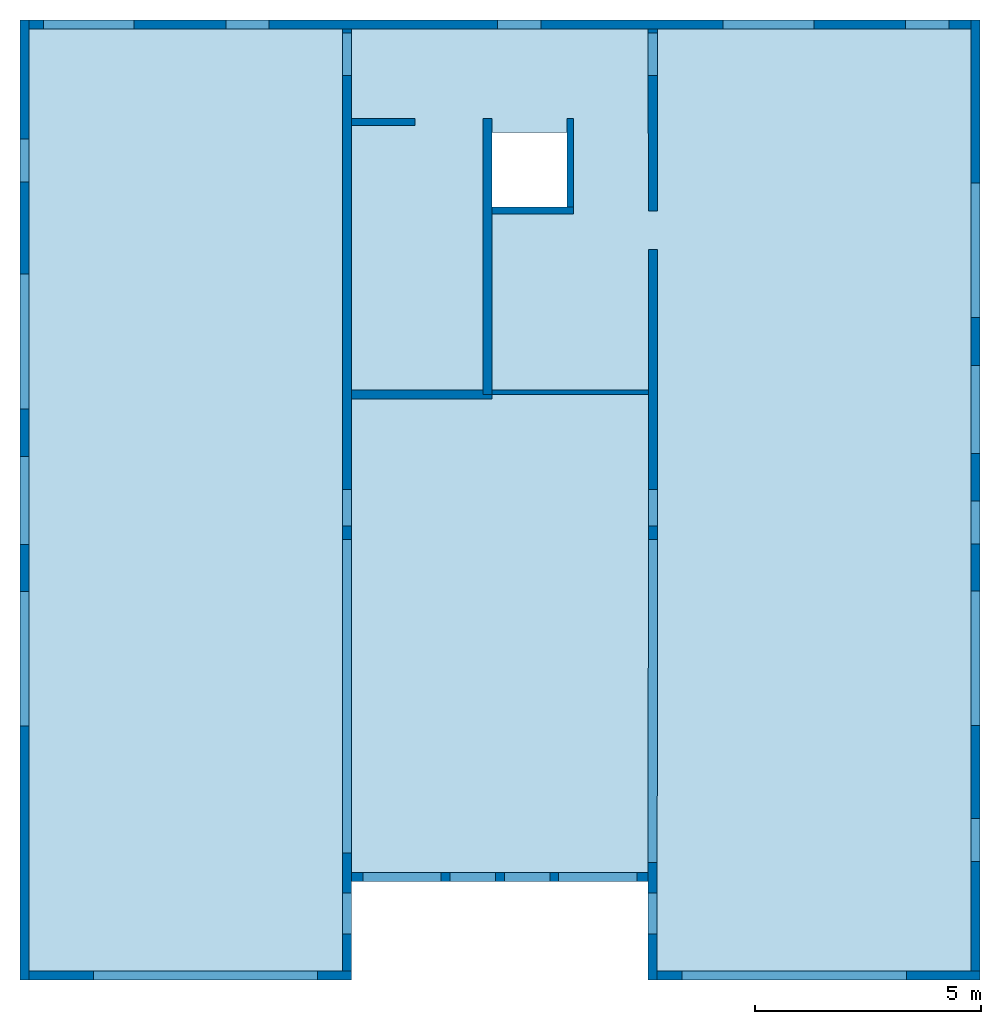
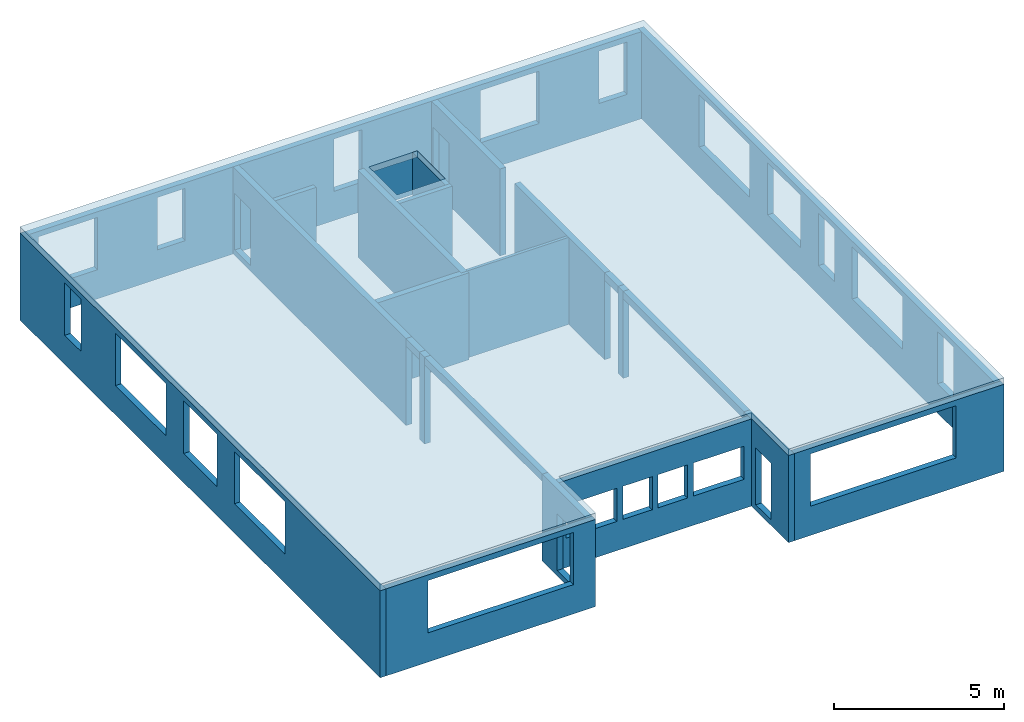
# One storey: 19 walls, 4 beams, 1 slab, 26 openings.
"""IFC2X3 building model written with IfcOpenShell, lengths in millimetres."""

from ifc_helpers import new_model, entity, si_unit, converted_unit, frame, frame_2d, origin, origin_with_axes, place, context, subcontext, project, spatial, polyline, rectangle, outline, extrude, material, layer, layer_set, layer_usage, element, save


model = new_model("IFC2X3")

# Units and contexts
model_context = context("Model", 3, precision=1e-05, world=origin())
body_context = subcontext(model_context, "Body", "Model", "MODEL_VIEW")
ifc_project = project(units=[si_unit("LENGTHUNIT", "METRE", prefix="MILLI"), converted_unit("PLANEANGLEUNIT", "DEGREE", entity("IfcPlaneAngleMeasure", 0.0174532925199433), si_unit("PLANEANGLEUNIT", "RADIAN"), dimensions=[0, 0, 0, 0, 0, 0, 0]), si_unit("AREAUNIT", "SQUARE_METRE"), si_unit("VOLUMEUNIT", "CUBIC_METRE")], contexts=[model_context])

# Building, storey
building_placement = place(None, origin())
building = spatial("IfcBuilding", under=ifc_project, at=building_placement, Name="Bâtiment", CompositionType="ELEMENT")
storey_placement = place(building_placement, frame((0.0, 0.0, 21090.0), z_axis=(0.0, 0.0, 1.0), x_axis=(1.0, 0.0, 0.0)))
storey = spatial("IfcBuildingStorey", under=building, at=storey_placement, Name="6. Etage supérieur", CompositionType="ELEMENT", Elevation=21090.0)

# Beams
ifc_material_1 = material(Name="<Unnamed Material>")
beam_1_placement = place(storey_placement, frame((5082.141178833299, -29113.35259361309, 2660.0), z_axis=(0.0, 0.0, 1.0), x_axis=(0.0001663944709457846, 0.99999998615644, 0.0)))
element("IfcBeam", 1, at=beam_1_placement, inside=storey, material=ifc_material_1, Name="<Unnamed Element>", context=body_context, shape_type="SweptSolid", body=[
    extrude(rectangle(XDim=270.0, YDim=199.9999999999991, at=frame_2d((135.0, -99.99999999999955), x_axis=(1.0, 0.0))), frame((0.0, 0.0, 0.0), z_axis=(1.0, 0.0, 0.0), x_axis=(0.0, 0.0, 1.0)), (0.0, 0.0, 1.0), 6928.885599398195),
])
ifc_material_2 = material(Name="<Unnamed Material>")
beam_2_placement = place(storey_placement, frame((5083.290151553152, -21884.2307459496, 2660.0), z_axis=(0.0, 0.0, 1.0), x_axis=(-1.317473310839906e-05, 0.9999999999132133, 0.0)))
element("IfcBeam", 2, at=beam_2_placement, inside=storey, material=ifc_material_2, Name="<Unnamed Element>", context=body_context, shape_type="SweptSolid", body=[
    extrude(rectangle(XDim=270.0, YDim=200.0000000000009, at=frame_2d((135.0, -100.0000000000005), x_axis=(1.0, 0.0))), frame((0.0, 0.0, 0.0), z_axis=(1.0, 0.0, 0.0), x_axis=(0.0, 0.0, 1.0)), (0.0, 0.0, 1.0), 799.7636557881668),
])
ifc_material_3 = material(Name="<Unnamed Material>")
beam_3_placement = place(storey_placement, frame((11829.62050941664, -29313.35259361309, 2660.0), z_axis=(0.0, 0.0, 1.0), x_axis=(0.0004434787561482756, 0.9999999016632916, 0.0)))
element("IfcBeam", 3, at=beam_3_placement, inside=storey, material=ifc_material_3, Name="<Unnamed Element>", context=body_context, shape_type="SweptSolid", body=[
    extrude(rectangle(XDim=270.0, YDim=200.0000000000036, at=frame_2d((135.0, -100.0000000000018), x_axis=(1.0, 0.0))), frame((0.0, 0.0, 0.0), z_axis=(1.0, 0.0, 0.0), x_axis=(0.0, 0.0, 1.0)), (0.0, 0.0, 1.0), 7128.886204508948),
])
ifc_material_4 = material(Name="<Unnamed Material>")
beam_4_placement = place(storey_placement, frame((11832.73984718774, -21884.23365403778, 2660.0), z_axis=(0.0, 0.0, 1.0), x_axis=(-0.0001404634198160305, 0.9999999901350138, 0.0)))
element("IfcBeam", 4, at=beam_4_placement, inside=storey, material=ifc_material_4, Name="<Unnamed Element>", context=body_context, shape_type="SweptSolid", body=[
    extrude(rectangle(XDim=270.0, YDim=199.9999999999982, at=frame_2d((135.0, -99.99999999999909), x_axis=(1.0, 0.0))), frame((0.0, 0.0, 0.0), z_axis=(1.0, 0.0, 0.0), x_axis=(0.0, 0.0, 1.0)), (0.0, 0.0, 1.0), 799.766560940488),
])

# Slab, openings
ifc_material_5 = material(Name="<Unnamed Material>")
ifc_layer_1 = layer(ifc_material_5, 230.0)
ifc_layer_set_1 = layer_set([ifc_layer_1])
ifc_layer_usage_1 = layer_usage(ifc_layer_set_1, "AXIS3", "POSITIVE", 0.0)
slab_placement = place(storey_placement, frame((-2242.186712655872, -10713.57313399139, 2930.0), z_axis=(0.0, 0.0, 1.0), x_axis=(1.0, 0.0, 0.0)))
slab = element("IfcSlab", 5, at=slab_placement, inside=storey, material=ifc_layer_usage_1, Name="<Unnamed Element>", PredefinedType="FLOOR", context=body_context, shape_type="SweptSolid", body=[
    extrude(rectangle(XDim=21199.7794596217, YDim=21199.78053621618, at=frame_2d((10599.89026810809, -10599.88972981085), x_axis=(0.0, -0.9999999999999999))), origin_with_axes(), (0.0, 0.0, 1.0), 230.0),
])
opening_1_placement = place(slab_placement, frame((10423.20173598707, -2481.977777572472, 0.0), z_axis=(0.0, 0.0, 1.0), x_axis=(1.0, 0.0, 0.0)))
element("IfcOpeningElement", 6, at=opening_1_placement, cuts=slab, Name="Trémie dans dalle", ObjectType="Opening", context=body_context, shape_type="SweptSolid", body=[
    extrude(rectangle(XDim=1648.503166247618, YDim=1651.250216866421, at=frame_2d((825.6251084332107, -824.2515831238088), x_axis=(0.0, -1.0))), origin_with_axes(), (0.0, 0.0, 1.0), 230.0),
])
opening_2_placement = place(slab_placement, frame((7324.327891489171, -19029.63685337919, 0.0), z_axis=(0.0, 0.0, 1.0), x_axis=(1.0, 0.0, 0.0)))
element("IfcOpeningElement", 7, at=opening_2_placement, cuts=slab, Name="Trémie dans dalle", ObjectType="Opening", context=body_context, shape_type="SweptSolid", body=[
    extrude(rectangle(XDim=2170.142606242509, YDim=6547.479330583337, at=frame_2d((3273.739665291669, -1085.071303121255), x_axis=(0.0, -1.0))), origin_with_axes(), (0.0, 0.0, 1.0), 230.0),
])

# Wall, openings
ifc_material_6 = material(Name="<Unnamed Material>")
ifc_layer_2 = layer(ifc_material_6, 200.0)
ifc_layer_set_2 = layer_set([ifc_layer_2])
ifc_layer_usage_2 = layer_usage(ifc_layer_set_2, "AXIS2", "POSITIVE", -200.0)
wall_1_placement = place(storey_placement, frame((-2242.186712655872, -10713.57313399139, -200.0), z_axis=(0.0, 0.0, 1.0), x_axis=(3.432091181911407e-16, -1.0, 0.0)))
wall_1 = element("IfcWallStandardCase", 8, at=wall_1_placement, inside=storey, material=ifc_layer_usage_2, Name="<Unnamed Element>", context=body_context, shape_type="SweptSolid", body=[
    extrude(rectangle(XDim=21199.77945962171, YDim=200.0, at=frame_2d((10599.88972981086, 100.0), x_axis=(1.0, 0.0))), origin_with_axes(), (0.0, 0.0, 1.0), 3130.0),
])
opening_3_placement = place(wall_1_placement, frame((2630.0, -1.195985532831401e-12, 1050.0), z_axis=(0.0, 1.0, 0.0), x_axis=(0.0, 0.0, 1.0)))
element("IfcOpeningElement", 9, at=opening_3_placement, cuts=wall_1, Name="Baie de fenêtre", ObjectType="Opening", context=body_context, shape_type="SweptSolid", body=[
    extrude(rectangle(XDim=1880.0, YDim=950.0, at=frame_2d((940.0, 475.0), x_axis=(1.0, 0.0))), origin_with_axes(), (0.0, 0.0, 1.0), 200.0),
])
opening_4_placement = place(wall_1_placement, frame((5610.0, -2.551132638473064e-12, 1050.0), z_axis=(0.0, 1.0, 0.0), x_axis=(0.0, 0.0, 1.0)))
element("IfcOpeningElement", 10, at=opening_4_placement, cuts=wall_1, Name="Baie de fenêtre", ObjectType="Opening", context=body_context, shape_type="SweptSolid", body=[
    extrude(rectangle(XDim=1880.0, YDim=2975.0, at=frame_2d((940.0, 1487.5), x_axis=(1.0, 0.0))), origin_with_axes(), (0.0, 0.0, 1.0), 200.0),
])
opening_5_placement = place(wall_1_placement, frame((9635.0, -4.381490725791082e-12, 1050.0), z_axis=(0.0, 1.0, 0.0), x_axis=(0.0, 0.0, 1.0)))
element("IfcOpeningElement", 11, at=opening_5_placement, cuts=wall_1, Name="Baie de fenêtre", ObjectType="Opening", context=body_context, shape_type="SweptSolid", body=[
    extrude(rectangle(XDim=1880.0, YDim=1950.0, at=frame_2d((940.0, 975.0), x_axis=(1.0, 0.0))), origin_with_axes(), (0.0, 0.0, 1.0), 200.0),
])
opening_6_placement = place(wall_1_placement, frame((12615.28281262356, -5.736766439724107e-12, 1050.0), z_axis=(0.0, 1.0, 0.0), x_axis=(0.0, 0.0, 1.0)))
element("IfcOpeningElement", 12, at=opening_6_placement, cuts=wall_1, Name="Baie de fenêtre", ObjectType="Opening", context=body_context, shape_type="SweptSolid", body=[
    extrude(rectangle(XDim=1880.0, YDim=2975.0, at=frame_2d((940.0, 1487.5), x_axis=(1.0, 0.0))), origin_with_axes(), (0.0, 0.0, 1.0), 199.9999999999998),
])

# Wall, opening
ifc_material_7 = material(Name="<Unnamed Material>")
ifc_layer_3 = layer(ifc_material_7, 200.0)
ifc_layer_set_3 = layer_set([ifc_layer_3])
ifc_layer_usage_3 = layer_usage(ifc_layer_set_3, "AXIS2", "POSITIVE", -200.0)
wall_2_placement = place(storey_placement, frame((-2042.18671265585, -31913.35259361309, -200.0), z_axis=(0.0, 0.0, 1.0), x_axis=(1.0, 6.740470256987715e-14, 0.0)))
wall_2 = element("IfcWallStandardCase", 13, at=wall_2_placement, inside=storey, material=ifc_layer_usage_3, Name="<Unnamed Element>", context=body_context, shape_type="SweptSolid", body=[
    extrude(rectangle(XDim=7124.327891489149, YDim=200.0, at=frame_2d((3562.163945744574, 100.0), x_axis=(1.0, 0.0))), origin_with_axes(), (0.0, 0.0, 1.0), 3130.0),
])
opening_7_placement = place(wall_2_placement, frame((1424.327891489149, -3.864370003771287e-12, 1050.0), z_axis=(0.0, 1.0, 0.0), x_axis=(0.0, 0.0, 1.0)))
element("IfcOpeningElement", 14, at=opening_7_placement, cuts=wall_2, Name="Baie de fenêtre", ObjectType="Opening", context=body_context, shape_type="SweptSolid", body=[
    extrude(rectangle(XDim=1880.0, YDim=4950.0, at=frame_2d((940.0, 2475.0), x_axis=(1.0, 0.0))), origin_with_axes(), (0.0, 0.0, 1.0), 200.0),
])

# Wall, openings
ifc_material_8 = material(Name="<Unnamed Material>")
ifc_layer_4 = layer(ifc_material_8, 200.0)
ifc_layer_set_4 = layer_set([ifc_layer_4])
ifc_layer_usage_4 = layer_usage(ifc_layer_set_4, "AXIS2", "POSITIVE", -200.0)
wall_3_placement = place(storey_placement, frame((5082.141178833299, -29743.20998737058, -200.0), z_axis=(0.0, 0.0, 1.0), x_axis=(1.0, 1.11126087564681e-15, 0.0)))
wall_3 = element("IfcWallStandardCase", 15, at=wall_3_placement, inside=storey, material=ifc_layer_usage_4, Name="<Unnamed Element>", context=body_context, shape_type="SweptSolid", body=[
    extrude(rectangle(XDim=6547.479330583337, YDim=200.0, at=frame_2d((3273.739665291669, 100.0), x_axis=(1.0, 0.0))), origin_with_axes(), (0.0, 0.0, 1.0), 3130.0),
])
opening_8_placement = place(wall_3_placement, frame((4572.479330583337, 3.637978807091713e-12, 1050.0), z_axis=(0.0, 1.0, 0.0), x_axis=(0.0, 0.0, 1.0)))
element("IfcOpeningElement", 16, at=opening_8_placement, cuts=wall_3, Name="Baie de fenêtre", ObjectType="Opening", context=body_context, shape_type="SweptSolid", body=[
    extrude(rectangle(XDim=1190.0, YDim=1725.0, at=frame_2d((595.0, 862.5), x_axis=(1.0, 0.0))), origin_with_axes(), (0.0, 0.0, 1.0), 200.0),
])
opening_9_placement = place(wall_3_placement, frame((250.0, 0.0, 1050.0), z_axis=(0.0, 1.0, 0.0), x_axis=(0.0, 0.0, 1.0)))
element("IfcOpeningElement", 17, at=opening_9_placement, cuts=wall_3, Name="Baie de fenêtre", ObjectType="Opening", context=body_context, shape_type="SweptSolid", body=[
    extrude(rectangle(XDim=1190.0, YDim=1725.0, at=frame_2d((595.0, 862.5), x_axis=(1.0, 0.0))), origin_with_axes(), (0.0, 0.0, 1.0), 200.0),
])
opening_10_placement = place(wall_3_placement, frame((2175.0, 3.637978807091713e-12, 1050.0), z_axis=(0.0, 1.0, 0.0), x_axis=(0.0, 0.0, 1.0)))
element("IfcOpeningElement", 18, at=opening_10_placement, cuts=wall_3, Name="Baie de fenêtre", ObjectType="Opening", context=body_context, shape_type="SweptSolid", body=[
    extrude(rectangle(XDim=1190.0, YDim=1000.0, at=frame_2d((595.0, 500.0), x_axis=(1.0, 0.0))), origin_with_axes(), (0.0, 0.0, 1.0), 200.0),
])
opening_11_placement = place(wall_3_placement, frame((3375.0, 3.637978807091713e-12, 1050.0), z_axis=(0.0, 1.0, 0.0), x_axis=(0.0, 0.0, 1.0)))
element("IfcOpeningElement", 19, at=opening_11_placement, cuts=wall_3, Name="Baie de fenêtre", ObjectType="Opening", context=body_context, shape_type="SweptSolid", body=[
    extrude(rectangle(XDim=1190.0, YDim=1000.0, at=frame_2d((595.0, 500.0), x_axis=(1.0, 0.0))), origin_with_axes(), (0.0, 0.0, 1.0), 200.0),
])

# Wall, opening
ifc_material_9 = material(Name="<Unnamed Material>")
ifc_layer_5 = layer(ifc_material_9, 200.0)
ifc_layer_set_5 = layer_set([ifc_layer_5])
ifc_layer_usage_5 = layer_usage(ifc_layer_set_5, "AXIS2", "POSITIVE", -200.0)
wall_4_placement = place(storey_placement, frame((11829.62050941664, -31913.35259361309, -200.0), z_axis=(0.0, 0.0, 1.0), x_axis=(0.0, 1.0, 0.0)))
wall_4 = element("IfcWallStandardCase", 20, at=wall_4_placement, inside=storey, material=ifc_layer_usage_5, Name="<Unnamed Element>", context=body_context, shape_type="SweptSolid", body=[
    extrude(rectangle(XDim=2600.0, YDim=200.0, at=frame_2d((1300.0, 100.0), x_axis=(1.0, 0.0))), origin_with_axes(), (0.0, 0.0, 1.0), 3130.0),
])
opening_12_placement = place(wall_4_placement, frame((1020.784339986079, 0.0, 200.0), z_axis=(0.0, 1.0, 0.0), x_axis=(0.0, 0.0, 1.0)))
element("IfcOpeningElement", 21, at=opening_12_placement, cuts=wall_4, Name="Baie de porte", ObjectType="Opening", context=body_context, shape_type="SweptSolid", body=[
    extrude(rectangle(XDim=2040.0, YDim=900.0, at=frame_2d((1020.0, 450.0), x_axis=(1.0, 0.0))), origin_with_axes(), (0.0, 0.0, 1.0), 200.0),
])

ifc_material_10 = material(Name="<Unnamed Material>")
ifc_layer_6 = layer(ifc_material_10, 200.0)
ifc_layer_set_6 = layer_set([ifc_layer_6])
ifc_layer_usage_6 = layer_usage(ifc_layer_set_6, "AXIS2", "POSITIVE", -200.0)
wall_5_placement = place(storey_placement, frame((11829.62050941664, -31913.35259361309, -200.0), z_axis=(0.0, 0.0, 1.0), x_axis=(1.0, 0.0, 0.0)))
wall_5 = element("IfcWallStandardCase", 22, at=wall_5_placement, inside=storey, material=ifc_layer_usage_6, Name="<Unnamed Element>", context=body_context, shape_type="SweptSolid", body=[
    extrude(rectangle(XDim=7127.973314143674, YDim=200.0, at=frame_2d((3563.986657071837, 100.0), x_axis=(1.0, 0.0))), origin_with_axes(), (0.0, 0.0, 1.0), 3130.0),
])
opening_13_placement = place(wall_5_placement, frame((550.0, 0.0, 1050.0), z_axis=(0.0, 1.0, 0.0), x_axis=(0.0, 0.0, 1.0)))
element("IfcOpeningElement", 23, at=opening_13_placement, cuts=wall_5, Name="Baie de fenêtre", ObjectType="Opening", context=body_context, shape_type="SweptSolid", body=[
    extrude(rectangle(XDim=1880.0, YDim=4950.0, at=frame_2d((940.0, 2475.0), x_axis=(1.0, 0.0))), origin_with_axes(), (0.0, 0.0, 1.0), 200.0),
])

# Wall, openings
ifc_material_11 = material(Name="<Unnamed Material>")
ifc_layer_7 = layer(ifc_material_11, 200.0)
ifc_layer_set_7 = layer_set([ifc_layer_7])
ifc_layer_usage_7 = layer_usage(ifc_layer_set_7, "AXIS2", "POSITIVE", -200.0)
wall_6_placement = place(storey_placement, frame((18957.59382356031, -31713.35259361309, -200.0), z_axis=(0.0, 0.0, 1.0), x_axis=(1.732389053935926e-16, 1.0, 0.0)))
wall_6 = element("IfcWallStandardCase", 24, at=wall_6_placement, inside=storey, material=ifc_layer_usage_7, Name="<Unnamed Element>", context=body_context, shape_type="SweptSolid", body=[
    extrude(rectangle(XDim=20999.7794596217, YDim=200.0, at=frame_2d((10499.88972981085, 100.0), x_axis=(1.0, 0.0))), origin_with_axes(), (0.0, 0.0, 1.0), 3130.0),
])
opening_14_placement = place(wall_6_placement, frame((2419.794981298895, 0.0, 1050.0), z_axis=(0.0, 1.0, 0.0), x_axis=(0.0, 0.0, 1.0)))
element("IfcOpeningElement", 25, at=opening_14_placement, cuts=wall_6, Name="Baie de fenêtre", ObjectType="Opening", context=body_context, shape_type="SweptSolid", body=[
    extrude(rectangle(XDim=1880.0, YDim=950.0, at=frame_2d((940.0, 475.0), x_axis=(1.0, 0.0))), origin_with_axes(), (0.0, 0.0, 1.0), 200.0),
])
opening_15_placement = place(wall_6_placement, frame((5419.794981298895, 0.0, 1050.0), z_axis=(0.0, 1.0, 0.0), x_axis=(0.0, 0.0, 1.0)))
element("IfcOpeningElement", 26, at=opening_15_placement, cuts=wall_6, Name="Baie de fenêtre", ObjectType="Opening", context=body_context, shape_type="SweptSolid", body=[
    extrude(rectangle(XDim=1880.0, YDim=2975.0, at=frame_2d((940.0, 1487.5), x_axis=(1.0, 0.0))), origin_with_axes(), (0.0, 0.0, 1.0), 200.0),
])
opening_16_placement = place(wall_6_placement, frame((9424.794981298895, 0.0, 1050.0), z_axis=(0.0, 1.0, 0.0), x_axis=(0.0, 0.0, 1.0)))
element("IfcOpeningElement", 27, at=opening_16_placement, cuts=wall_6, Name="Baie de fenêtre", ObjectType="Opening", context=body_context, shape_type="SweptSolid", body=[
    extrude(rectangle(XDim=1880.0, YDim=950.0, at=frame_2d((940.0, 475.0), x_axis=(1.0, 0.0))), origin_with_axes(), (0.0, 0.0, 1.0), 200.0),
])
opening_17_placement = place(wall_6_placement, frame((11424.7949812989, -3.637978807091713e-12, 1050.0), z_axis=(0.0, 1.0, 0.0), x_axis=(0.0, 0.0, 1.0)))
element("IfcOpeningElement", 28, at=opening_17_placement, cuts=wall_6, Name="Baie de fenêtre", ObjectType="Opening", context=body_context, shape_type="SweptSolid", body=[
    extrude(rectangle(XDim=1880.0, YDim=1950.0, at=frame_2d((940.0, 975.0), x_axis=(1.0, 0.0))), origin_with_axes(), (0.0, 0.0, 1.0), 200.0),
])
opening_18_placement = place(wall_6_placement, frame((14424.7949812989, -3.637978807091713e-12, 1050.0), z_axis=(0.0, 1.0, 0.0), x_axis=(0.0, 0.0, 1.0)))
element("IfcOpeningElement", 29, at=opening_18_placement, cuts=wall_6, Name="Baie de fenêtre", ObjectType="Opening", context=body_context, shape_type="SweptSolid", body=[
    extrude(rectangle(XDim=1880.0, YDim=2975.0, at=frame_2d((940.0, 1487.5), x_axis=(1.0, 0.0))), origin_with_axes(), (0.0, 0.0, 1.0), 200.0),
])

# Walls
ifc_material_12 = material(Name="<Unnamed Material>")
ifc_layer_8 = layer(ifc_material_12, 199.999999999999)
ifc_layer_set_8 = layer_set([ifc_layer_8])
ifc_layer_usage_8 = layer_usage(ifc_layer_set_8, "AXIS2", "POSITIVE", -200.0)
wall_7_placement = place(storey_placement, frame((5083.253280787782, -19085.63398741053, -200.0), z_axis=(0.0, 0.0, 1.0), x_axis=(0.9999999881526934, 0.0001539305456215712, 0.0)))
element("IfcWallStandardCase", 30, at=wall_7_placement, inside=storey, material=ifc_layer_usage_8, Name="<Unnamed Element>", context=body_context, shape_type="SweptSolid", body=[
    extrude(outline(polyline([(0.0, 0.0), (3099.828840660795, 0.0), (3099.844233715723, 100.0000011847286), (2899.84423608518, 100.0307872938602), (2899.85962440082, 199.999999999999), (0.02815116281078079, 200.0000000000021), (0.0, 0.0)])), origin_with_axes(), (0.0, 0.0, 1.0), 3130.0),
])
ifc_material_13 = material(Name="<Unnamed Material>")
ifc_layer_9 = layer(ifc_material_13, 200.0)
ifc_layer_set_9 = layer_set([ifc_layer_9])
ifc_layer_usage_9 = layer_usage(ifc_layer_set_9, "AXIS2", "POSITIVE", -200.0)
wall_8_placement = place(storey_placement, frame((8183.082084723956, -18985.1568266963, -200.0), z_axis=(0.0, 0.0, 1.0), x_axis=(4.776590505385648e-15, 1.0, 0.0)))
element("IfcWallStandardCase", 31, at=wall_8_placement, inside=storey, material=ifc_layer_usage_9, Name="<Unnamed Element>", context=body_context, shape_type="SweptSolid", body=[
    extrude(rectangle(XDim=6093.013504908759, YDim=200.0, at=frame_2d((3046.506752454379, 100.0), x_axis=(1.0, 0.0))), origin_with_axes(), (0.0, 0.0, 1.0), 3130.0),
])
ifc_material_14 = material(Name="<Unnamed Material>")
ifc_layer_10 = layer(ifc_material_14, 150.0)
ifc_layer_set_10 = layer_set([ifc_layer_10])
ifc_layer_usage_10 = layer_usage(ifc_layer_set_10, "AXIS2", "POSITIVE", -150.0)
wall_9_placement = place(storey_placement, frame((5083.173659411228, -13042.14332178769, -200.0), z_axis=(0.0, 0.0, 1.0), x_axis=(1.0, 0.0, 0.0)))
element("IfcWallStandardCase", 32, at=wall_9_placement, inside=storey, material=ifc_layer_usage_10, Name="<Unnamed Element>", context=body_context, shape_type="SweptSolid", body=[
    extrude(outline(polyline([(0.0, 0.0), (1398.094627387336, 0.0), (1398.094627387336, 150.0), (-0.001976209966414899, 150.0), (0.0, 0.0)])), origin_with_axes(), (0.0, 0.0, 1.0), 3130.0),
])
ifc_material_15 = material(Name="<Unnamed Material>")
ifc_layer_11 = layer(ifc_material_15, 150.0)
ifc_layer_set_11 = layer_set([ifc_layer_11])
ifc_layer_usage_11 = layer_usage(ifc_layer_set_11, "AXIS2", "POSITIVE", -150.0)
wall_10_placement = place(storey_placement, frame((8183.082084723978, -14994.05407781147, -200.0), z_axis=(0.0, 0.0, 1.0), x_axis=(1.0, -2.022016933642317e-15, 0.0)))
element("IfcWallStandardCase", 33, at=wall_10_placement, inside=storey, material=ifc_layer_usage_11, Name="<Unnamed Element>", context=body_context, shape_type="SweptSolid", body=[
    extrude(rectangle(XDim=1799.183155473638, YDim=150.0, at=frame_2d((899.5915777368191, 75.0), x_axis=(1.0, 0.0))), origin_with_axes(), (0.0, 0.0, 1.0), 3130.0),
])
ifc_material_16 = material(Name="<Unnamed Material>")
ifc_layer_12 = layer(ifc_material_16, 150.0)
ifc_layer_set_12 = layer_set([ifc_layer_12])
ifc_layer_usage_12 = layer_usage(ifc_layer_set_12, "AXIS2", "POSITIVE", -150.0)
wall_11_placement = place(storey_placement, frame((9982.265240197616, -14844.05407781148, -200.0), z_axis=(0.0, 0.0, 1.0), x_axis=(7.455215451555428e-15, 1.0, 0.0)))
element("IfcWallStandardCase", 34, at=wall_11_placement, inside=storey, material=ifc_layer_usage_12, Name="<Unnamed Element>", context=body_context, shape_type="SweptSolid", body=[
    extrude(rectangle(XDim=1951.910756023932, YDim=150.0, at=frame_2d((975.9553780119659, 75.0), x_axis=(1.0, 0.0))), origin_with_axes(), (0.0, 0.0, 1.0), 3130.0),
])
ifc_material_17 = material(Name="<Unnamed Material>")
ifc_layer_13 = layer(ifc_material_17, 200.0000000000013)
ifc_layer_set_13 = layer_set([ifc_layer_13])
ifc_layer_usage_13 = layer_usage(ifc_layer_set_13, "AXIS2", "POSITIVE", -200.0)
wall_12_placement = place(storey_placement, frame((11632.73984916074, -21884.26174672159, -200.0), z_axis=(0.0, 0.0, 1.0), x_axis=(0.000140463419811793, -0.999999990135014, 0.0)))
element("IfcWallStandardCase", 35, at=wall_12_placement, inside=storey, material=ifc_layer_usage_13, Name="<Unnamed Element>", context=body_context, shape_type="SweptSolid", body=[
    extrude(rectangle(XDim=300.2334390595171, YDim=200.0000000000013, at=frame_2d((150.1167195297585, 100.0000000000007), x_axis=(1.0, 0.0))), origin_with_axes(), (0.0, 0.0, 1.0), 3130.0),
])
ifc_material_18 = material(Name="<Unnamed Material>")
ifc_layer_14 = layer(ifc_material_18, 200.0000000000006)
ifc_layer_set_14 = layer_set([ifc_layer_14])
ifc_layer_usage_14 = layer_usage(ifc_layer_set_14, "AXIS2", "POSITIVE", -200.0)
wall_13_placement = place(storey_placement, frame((4883.290151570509, -21884.23338089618, -200.0), z_axis=(0.0, 0.0, 1.0), x_axis=(1.31747331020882e-05, -0.9999999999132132, 0.0)))
element("IfcWallStandardCase", 36, at=wall_13_placement, inside=storey, material=ifc_layer_usage_14, Name="<Unnamed Element>", context=body_context, shape_type="SweptSolid", body=[
    extrude(rectangle(XDim=300.2363442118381, YDim=200.0000000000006, at=frame_2d((150.118172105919, 100.0000000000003), x_axis=(1.0, 0.0))), origin_with_axes(), (0.0, 0.0, 1.0), 3130.0),
])

# Wall, opening
ifc_material_19 = material(Name="<Unnamed Material>")
ifc_layer_15 = layer(ifc_material_19, 200.0000000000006)
ifc_layer_set_15 = layer_set([ifc_layer_15])
ifc_layer_usage_15 = layer_usage(ifc_layer_set_15, "AXIS2", "POSITIVE", -200.0)
wall_14_placement = place(storey_placement, frame((4883.145616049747, -10913.57313399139, -200.0), z_axis=(0.0, 0.0, 1.0), x_axis=(1.317473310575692e-05, -0.9999999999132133, 0.0)))
wall_14 = element("IfcWallStandardCase", 37, at=wall_14_placement, inside=storey, material=ifc_layer_usage_15, Name="<Unnamed Element>", context=body_context, shape_type="SweptSolid", body=[
    extrude(outline(polyline([(0.0, 0.0), (10170.89659206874, 0.0), (10170.89659206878, 200.0000000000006), (0.002634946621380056, 199.9999999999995), (0.0, 0.0)])), origin_with_axes(), (0.0, 0.0, 1.0), 3130.0),
])
opening_19_placement = place(wall_14_placement, frame((92.06476986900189, 6.678295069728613e-14, 200.0), z_axis=(0.0, 1.0, 0.0), x_axis=(0.0, 0.0, 1.0)))
element("IfcOpeningElement", 38, at=opening_19_placement, cuts=wall_14, Name="Porte-fenêtre", ObjectType="Opening", context=body_context, shape_type="SweptSolid", body=[
    extrude(rectangle(XDim=2040.0, YDim=930.0, at=frame_2d((1020.0, 465.0), x_axis=(1.0, 0.0))), origin_with_axes(), (0.0, 0.0, 1.0), 200.0000000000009),
])

# Walls
ifc_material_20 = material(Name="<Unnamed Material>")
ifc_layer_16 = layer(ifc_material_20, 100.0)
ifc_layer_set_16 = layer_set([ifc_layer_16])
ifc_layer_usage_16 = layer_usage(ifc_layer_set_16, "AXIS2", "POSITIVE", -100.0)
wall_15_placement = place(storey_placement, frame((8183.082084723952, -18985.1568266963, -200.0), z_axis=(0.0, 0.0, 1.0), x_axis=(1.0, -4.218862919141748e-14, 0.0)))
element("IfcWallStandardCase", 39, at=wall_15_placement, inside=storey, material=ifc_layer_usage_16, Name="<Unnamed Element>", context=body_context, shape_type="SweptSolid", body=[
    extrude(outline(polyline([(0.0, 0.0), (3449.250546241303, 0.0), (3449.236499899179, 100.0), (-5.808841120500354e-13, 100.0), (0.0, 0.0)])), origin_with_axes(), (0.0, 0.0, 1.0), 3130.0),
])
ifc_material_21 = material(Name="<Unnamed Material>")
ifc_layer_17 = layer(ifc_material_21, 199.9999999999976)
ifc_layer_set_17 = layer_set([ifc_layer_17])
ifc_layer_usage_17 = layer_usage(ifc_layer_set_17, "AXIS2", "POSITIVE", -200.0)
wall_16_placement = place(storey_placement, frame((11631.88314802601, -15785.15688785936, -200.0), z_axis=(0.0, 0.0, 1.0), x_axis=(0.0001404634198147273, -0.9999999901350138, 0.0)))
element("IfcWallStandardCase", 40, at=wall_16_placement, inside=storey, material=ifc_layer_usage_17, Name="<Unnamed Element>", context=body_context, shape_type="SweptSolid", body=[
    extrude(rectangle(XDim=5299.338358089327, YDim=199.9999999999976, at=frame_2d((2649.669179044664, 99.9999999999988), x_axis=(1.0, 0.0))), origin_with_axes(), (0.0, 0.0, 1.0), 3130.0),
])

# Wall, opening
ifc_material_22 = material(Name="<Unnamed Material>")
ifc_layer_18 = layer(ifc_material_22, 199.9999999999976)
ifc_layer_set_18 = layer_set([ifc_layer_18])
ifc_layer_usage_18 = layer_usage(ifc_layer_set_18, "AXIS2", "POSITIVE", -200.0)
wall_17_placement = place(storey_placement, frame((11631.19886870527, -10913.57313399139, -200.0), z_axis=(0.0, 0.0, 1.0), x_axis=(0.0001404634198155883, -0.9999999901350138, 0.0)))
wall_17 = element("IfcWallStandardCase", 41, at=wall_17_placement, inside=storey, material=ifc_layer_usage_18, Name="<Unnamed Element>", context=body_context, shape_type="SweptSolid", body=[
    extrude(outline(polyline([(0.0, 0.0), (4021.58381031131, -1.110223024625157e-16), (4021.583810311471, 199.9999999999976), (0.02809268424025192, 200.0000000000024), (0.0, 0.0)])), origin_with_axes(), (0.0, 0.0, 1.0), 3130.0),
])
opening_20_placement = place(wall_17_placement, frame((91.5837713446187, 2.4966660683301e-13, 200.0), z_axis=(0.0, 1.0, 0.0), x_axis=(0.0, 0.0, 1.0)))
element("IfcOpeningElement", 42, at=opening_20_placement, cuts=wall_17, Name="Porte-fenêtre", ObjectType="Opening", context=body_context, shape_type="SweptSolid", body=[
    extrude(rectangle(XDim=2040.0, YDim=930.0, at=frame_2d((1020.0, 465.0), x_axis=(1.0, 0.0))), origin_with_axes(), (0.0, 0.0, 1.0), 200.0000000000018),
])

# Wall, openings
ifc_material_23 = material(Name="<Unnamed Material>")
ifc_layer_19 = layer(ifc_material_23, 200.0)
ifc_layer_set_19 = layer_set([ifc_layer_19])
ifc_layer_usage_19 = layer_usage(ifc_layer_set_19, "AXIS2", "POSITIVE", -200.0)
wall_18_placement = place(storey_placement, frame((18757.59382356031, -10713.57313399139, -200.0), z_axis=(0.0, 0.0, 1.0), x_axis=(-1.0, 0.0, 0.0)))
wall_18 = element("IfcWallStandardCase", 43, at=wall_18_placement, inside=storey, material=ifc_layer_usage_19, Name="<Unnamed Element>", context=body_context, shape_type="SweptSolid", body=[
    extrude(rectangle(XDim=20799.78053621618, YDim=200.0, at=frame_2d((10399.89026810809, 100.0), x_axis=(1.0, 0.0))), origin_with_axes(), (0.0, 0.0, 1.0), 3130.0),
])
opening_21_placement = place(wall_18_placement, frame((490.0, 0.0, 1050.0), z_axis=(0.0, 1.0, 0.0), x_axis=(0.0, 0.0, 1.0)))
element("IfcOpeningElement", 44, at=opening_21_placement, cuts=wall_18, Name="Baie de fenêtre", ObjectType="Opening", context=body_context, shape_type="SweptSolid", body=[
    extrude(rectangle(XDim=1880.0, YDim=950.0, at=frame_2d((940.0, 475.0), x_axis=(1.0, 0.0))), origin_with_axes(), (0.0, 0.0, 1.0), 200.0),
])
opening_22_placement = place(wall_18_placement, frame((3470.0, 0.0, 1050.0), z_axis=(0.0, 1.0, 0.0), x_axis=(0.0, 0.0, 1.0)))
element("IfcOpeningElement", 45, at=opening_22_placement, cuts=wall_18, Name="Baie de fenêtre", ObjectType="Opening", context=body_context, shape_type="SweptSolid", body=[
    extrude(rectangle(XDim=1880.0, YDim=2000.0, at=frame_2d((940.0, 1000.0), x_axis=(1.0, 0.0))), origin_with_axes(), (0.0, 0.0, 1.0), 200.0),
])
opening_23_placement = place(wall_18_placement, frame((9500.0, 0.0, 1050.0), z_axis=(0.0, 1.0, 0.0), x_axis=(0.0, 0.0, 1.0)))
element("IfcOpeningElement", 46, at=opening_23_placement, cuts=wall_18, Name="Baie de fenêtre", ObjectType="Opening", context=body_context, shape_type="SweptSolid", body=[
    extrude(rectangle(XDim=1880.0, YDim=950.0, at=frame_2d((940.0, 475.0), x_axis=(1.0, 0.0))), origin_with_axes(), (0.0, 0.0, 1.0), 200.0),
])
opening_24_placement = place(wall_18_placement, frame((15499.85239635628, 0.0, 1050.0), z_axis=(0.0, 1.0, 0.0), x_axis=(0.0, 0.0, 1.0)))
element("IfcOpeningElement", 47, at=opening_24_placement, cuts=wall_18, Name="Baie de fenêtre", ObjectType="Opening", context=body_context, shape_type="SweptSolid", body=[
    extrude(rectangle(XDim=1880.0, YDim=950.0, at=frame_2d((940.0, 475.0), x_axis=(1.0, 0.0))), origin_with_axes(), (0.0, 0.0, 1.0), 200.0),
])
opening_25_placement = place(wall_18_placement, frame((18479.85239635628, 0.0, 1050.0), z_axis=(0.0, 1.0, 0.0), x_axis=(0.0, 0.0, 1.0)))
element("IfcOpeningElement", 48, at=opening_25_placement, cuts=wall_18, Name="Baie de fenêtre", ObjectType="Opening", context=body_context, shape_type="SweptSolid", body=[
    extrude(rectangle(XDim=1880.0, YDim=2000.0, at=frame_2d((940.0, 1000.0), x_axis=(1.0, 0.0))), origin_with_axes(), (0.0, 0.0, 1.0), 200.0),
])

# Wall, opening
ifc_material_24 = material(Name="<Unnamed Material>")
ifc_layer_20 = layer(ifc_material_24, 200.0)
ifc_layer_set_20 = layer_set([ifc_layer_20])
ifc_layer_usage_20 = layer_usage(ifc_layer_set_20, "AXIS2", "POSITIVE", -200.0)
wall_19_placement = place(storey_placement, frame((5082.141178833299, -31713.35259361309, -200.0), z_axis=(0.0, 0.0, 1.0), x_axis=(0.0, 1.0, 0.0)))
wall_19 = element("IfcWallStandardCase", 49, at=wall_19_placement, inside=storey, material=ifc_layer_usage_20, Name="<Unnamed Element>", context=body_context, shape_type="SweptSolid", body=[
    extrude(rectangle(XDim=2600.0, YDim=200.0, at=frame_2d((1300.0, 100.0), x_axis=(1.0, 0.0))), origin_with_axes(), (0.0, 0.0, 1.0), 3130.0),
])
opening_26_placement = place(wall_19_placement, frame((820.7843399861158, 0.0, 200.0), z_axis=(0.0, 1.0, 0.0), x_axis=(0.0, 0.0, 1.0)))
element("IfcOpeningElement", 50, at=opening_26_placement, cuts=wall_19, Name="Baie de porte", ObjectType="Opening", context=body_context, shape_type="SweptSolid", body=[
    extrude(rectangle(XDim=2040.0, YDim=900.0, at=frame_2d((1020.0, 450.0), x_axis=(1.0, 0.0))), origin_with_axes(), (0.0, 0.0, 1.0), 200.0),
])

save(model, "model.ifc")
